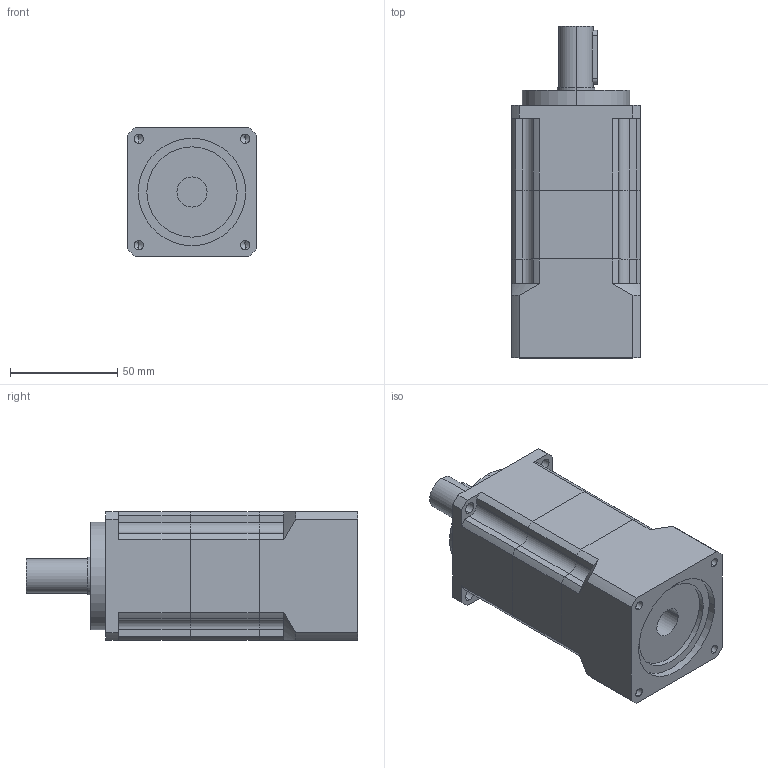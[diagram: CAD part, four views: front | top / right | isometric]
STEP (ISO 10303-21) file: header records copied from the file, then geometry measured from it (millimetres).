
FILE_DESCRIPTION (( 'STEP AP203' ), '1' );
FILE_NAME ('WAB060-L2(400W)俋倛芞(14-32-50-70-M5).STEP', '2018-07-26T02:53:39', ( 'wanshsin' ), ( 'Microsoft' ), 'SwSTEP 2.0', 'SolidWorks 2014', '' );
FILE_SCHEMA (( 'CONFIG_CONTROL_DESIGN' ));
Length unit declared in the file: millimetre
Products named in the file (1): WAB060-L2(400W)俋倛芞(14-32-50-70-M5)
Bounding box: 60 x 154.5 x 60 mm (x, y, z)
Volume: 394685.5 mm3; surface area: 52835.2 mm2
Topology: 3 solids, 3 shells, 149 faces, 390 edges, 249 vertices
Faces by surface type: cylinder 76, plane 59, cone 14
Entity records: 4715 total; most frequent: CARTESIAN_POINT 881, DIRECTION 824, ORIENTED_EDGE 760, EDGE_CURVE 380, AXIS2_PLACEMENT_3D 304, VERTEX_POINT 249, VECTOR 216, LINE 216
